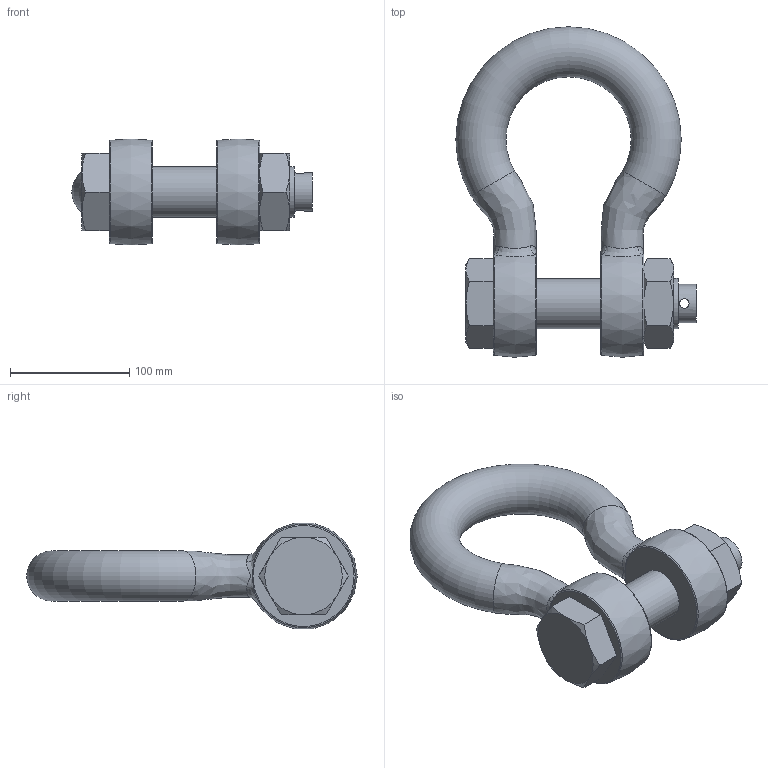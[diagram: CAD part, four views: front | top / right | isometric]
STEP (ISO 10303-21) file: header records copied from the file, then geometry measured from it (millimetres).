
FILE_DESCRIPTION(/* description */ (''),/* implementation_level */ '2;1');
FILE_NAME(/* name */ 'C:\Users\D\Documents\Inventor\HP\吊具\シャックル\BB_2\bb_36.stp',/* time_stamp */ '2024-11-20T10:47:31+09:00',/* author */ ('D'),/* organization */ (''),/* preprocessor_version */ 'ST-DEVELOPER v18',/* originating_system */ 'Autodesk Inventor 2020',/* authorisation */ '');
FILE_SCHEMA (('AUTOMOTIVE_DESIGN { 1 0 10303 214 3 1 1 }'));
Length unit declared in the file: millimetre
Products named in the file (3): bb_36; ba_6; sb_pin_10
Assembly tree (2 placements, depth 2):
  bb_36
    ba_6
    sb_pin_10
Bounding box: 201.5 x 277 x 88.82 mm (x, y, z)
Volume: 1278026.4 mm3; surface area: 148064 mm2
Topology: 4 solids, 4 shells, 67 faces, 167 edges, 109 vertices
Faces by surface type: plane 26, cone 18, bspline 12, cylinder 6, torus 5
Full cylindrical faces by diameter (mm): 8 x1, 32 x1, 42 x2, 43 x2
Entity records: 3378 total; most frequent: CARTESIAN_POINT 1815, ORIENTED_EDGE 330, DIRECTION 287, EDGE_CURVE 165, AXIS2_PLACEMENT_3D 131, VERTEX_POINT 109, EDGE_LOOP 76, CIRCLE 71
